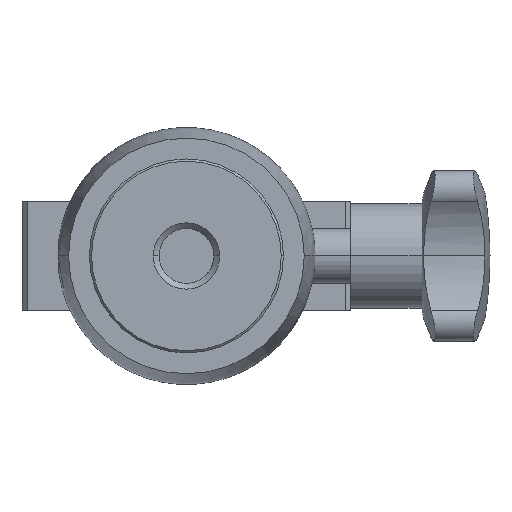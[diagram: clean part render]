
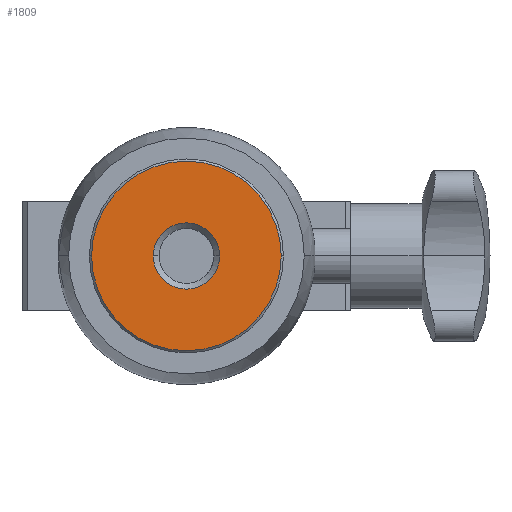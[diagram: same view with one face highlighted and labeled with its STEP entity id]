
A CAD part, left-side view. The second image highlights one B-rep face of the part: STEP entity #1809.
In plain terms, the highlighted planar face has unit normal (-1, 0, 0).
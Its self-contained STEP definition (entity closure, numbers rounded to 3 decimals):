
#38 = CARTESIAN_POINT ( 'NONE',  ( 0., 0., 0. ) ) ;
#165 = CARTESIAN_POINT ( 'NONE',  ( 0., 0., 0. ) ) ;
#210 = VERTEX_POINT ( 'NONE', #513 ) ;
#252 = DIRECTION ( 'NONE',  ( -1., 0., 0. ) ) ;
#329 = DIRECTION ( 'NONE',  ( 0., 0., 1. ) ) ;
#369 = DIRECTION ( 'NONE',  ( 1., 0., 0. ) ) ;
#371 = PLANE ( 'NONE',  #1958 ) ;
#374 = DIRECTION ( 'NONE',  ( 0., 0., -1. ) ) ;
#452 = CARTESIAN_POINT ( 'NONE',  ( 0., 0., 8.65 ) ) ;
#455 = VERTEX_POINT ( 'NONE', #452 ) ;
#460 = VERTEX_POINT ( 'NONE', #577 ) ;
#513 = CARTESIAN_POINT ( 'NONE',  ( 0., 0., -3.025 ) ) ;
#538 = CARTESIAN_POINT ( 'NONE',  ( 0., 0., -8.65 ) ) ;
#542 = VERTEX_POINT ( 'NONE', #538 ) ;
#577 = CARTESIAN_POINT ( 'NONE',  ( 0., 0., 3.025 ) ) ;
#878 = CARTESIAN_POINT ( 'NONE',  ( 0., 0., 0. ) ) ;
#895 = DIRECTION ( 'NONE',  ( -1., 0., 0. ) ) ;
#914 = DIRECTION ( 'NONE',  ( 0., 0., -1. ) ) ;
#952 = CARTESIAN_POINT ( 'NONE',  ( 0., 0., 0. ) ) ;
#954 = DIRECTION ( 'NONE',  ( -1., 0., 0. ) ) ;
#959 = DIRECTION ( 'NONE',  ( 0., 0., -1. ) ) ;
#960 = CARTESIAN_POINT ( 'NONE',  ( 0., 0., 0. ) ) ;
#1001 = DIRECTION ( 'NONE',  ( -1., 0., 0. ) ) ;
#1007 = DIRECTION ( 'NONE',  ( 0., 0., 1. ) ) ;
#1809 = ADVANCED_FACE ( 'NONE', ( #2699, #2721 ), #371, .F. ) ;
#1872 = EDGE_CURVE ( 'NONE', #210, #460, #3023, .T. ) ;
#1894 = EDGE_CURVE ( 'NONE', #542, #455, #2667, .T. ) ;
#1958 = AXIS2_PLACEMENT_3D ( 'NONE', #38, #369, #374 ) ;
#1963 = AXIS2_PLACEMENT_3D ( 'NONE', #165, #252, #329 ) ;
#2012 = AXIS2_PLACEMENT_3D ( 'NONE', #960, #1001, #1007 ) ;
#2031 = AXIS2_PLACEMENT_3D ( 'NONE', #878, #895, #914 ) ;
#2105 = EDGE_CURVE ( 'NONE', #460, #210, #3141, .T. ) ;
#2162 = EDGE_CURVE ( 'NONE', #455, #542, #3182, .T. ) ;
#2209 = AXIS2_PLACEMENT_3D ( 'NONE', #952, #954, #959 ) ;
#2236 = ORIENTED_EDGE ( 'NONE', *, *, #1894, .T. ) ;
#2341 = EDGE_LOOP ( 'NONE', ( #2978, #2346 ) ) ;
#2346 = ORIENTED_EDGE ( 'NONE', *, *, #1872, .F. ) ;
#2387 = EDGE_LOOP ( 'NONE', ( #2236, #2402 ) ) ;
#2402 = ORIENTED_EDGE ( 'NONE', *, *, #2162, .T. ) ;
#2667 = CIRCLE ( 'NONE', #2209, 8.65 ) ;
#2699 = FACE_BOUND ( 'NONE', #2341, .T. ) ;
#2721 = FACE_OUTER_BOUND ( 'NONE', #2387, .T. ) ;
#2978 = ORIENTED_EDGE ( 'NONE', *, *, #2105, .F. ) ;
#3023 = CIRCLE ( 'NONE', #1963, 3.025 ) ;
#3141 = CIRCLE ( 'NONE', #2012, 3.025 ) ;
#3182 = CIRCLE ( 'NONE', #2031, 8.65 ) ;
